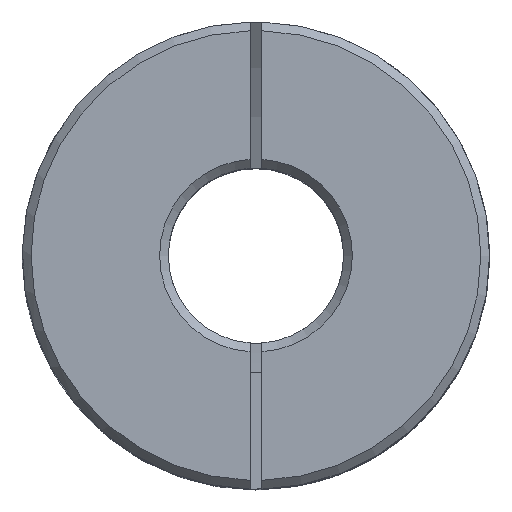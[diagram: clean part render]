
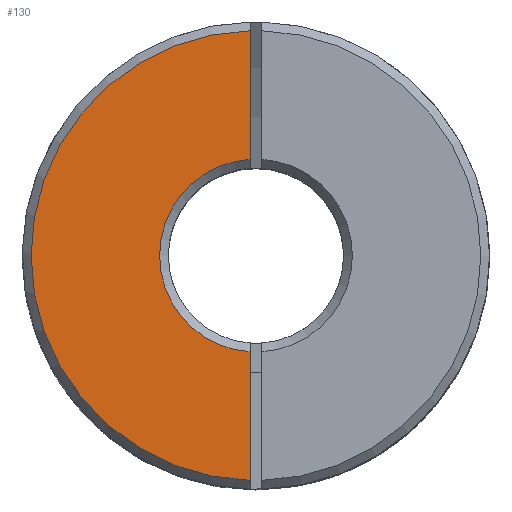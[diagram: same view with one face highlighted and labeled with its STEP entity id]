
A CAD part, top view. The second image highlights one B-rep face of the part: STEP entity #130.
In plain terms, the highlighted planar face has unit normal (0, 0, 1).
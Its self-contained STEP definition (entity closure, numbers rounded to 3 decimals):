
#130 = ADVANCED_FACE( '', ( #280 ), #281, .T. );
#280 = FACE_OUTER_BOUND( '', #430, .T. );
#281 = PLANE( '', #431 );
#430 = EDGE_LOOP( '', ( #849, #850, #851, #852 ) );
#431 = AXIS2_PLACEMENT_3D( '', #853, #854, #855 );
#849 = ORIENTED_EDGE( '', *, *, #969, .F. );
#850 = ORIENTED_EDGE( '', *, *, #982, .T. );
#851 = ORIENTED_EDGE( '', *, *, #922, .F. );
#852 = ORIENTED_EDGE( '', *, *, #971, .T. );
#853 = CARTESIAN_POINT( '', ( -8., 0., 8. ) );
#854 = DIRECTION( '', ( 0., 0., 1. ) );
#855 = DIRECTION( '', ( 1., 0., 0. ) );
#922 = EDGE_CURVE( '', #1108, #1109, #1110, .T. );
#969 = EDGE_CURVE( '', #1186, #1188, #1189, .T. );
#971 = EDGE_CURVE( '', #1108, #1188, #1191, .F. );
#982 = EDGE_CURVE( '', #1186, #1109, #1203, .T. );
#1108 = VERTEX_POINT( '', #1623 );
#1109 = VERTEX_POINT( '', #1624 );
#1110 = LINE( '', #1625, #1626 );
#1186 = VERTEX_POINT( '', #1732 );
#1188 = VERTEX_POINT( '', #1737 );
#1189 = LINE( '', #1738, #1739 );
#1191 = CIRCLE( '', #1744, 3.3 );
#1203 = CIRCLE( '', #1773, 7.7 );
#1623 = CARTESIAN_POINT( '', ( -0.2, -3.294, 8. ) );
#1624 = CARTESIAN_POINT( '', ( -0.2, -7.697, 8. ) );
#1625 = CARTESIAN_POINT( '', ( -0.2, -8., 8. ) );
#1626 = VECTOR( '', #1870, 1000. );
#1732 = CARTESIAN_POINT( '', ( -0.2, 7.697, 8. ) );
#1737 = CARTESIAN_POINT( '', ( -0.2, 3.294, 8. ) );
#1738 = CARTESIAN_POINT( '', ( -0.2, -8., 8. ) );
#1739 = VECTOR( '', #1964, 1000. );
#1744 = AXIS2_PLACEMENT_3D( '', #1965, #1966, #1967 );
#1773 = AXIS2_PLACEMENT_3D( '', #1976, #1977, #1978 );
#1870 = DIRECTION( '', ( 0., -1., 0. ) );
#1964 = DIRECTION( '', ( 0., -1., 0. ) );
#1965 = CARTESIAN_POINT( '', ( 0., 0., 8. ) );
#1966 = DIRECTION( '', ( 0., 0., 1. ) );
#1967 = DIRECTION( '', ( 1., 0., 0. ) );
#1976 = CARTESIAN_POINT( '', ( 0., 0., 8. ) );
#1977 = DIRECTION( '', ( 0., 0., 1. ) );
#1978 = DIRECTION( '', ( 1., 0., 0. ) );
